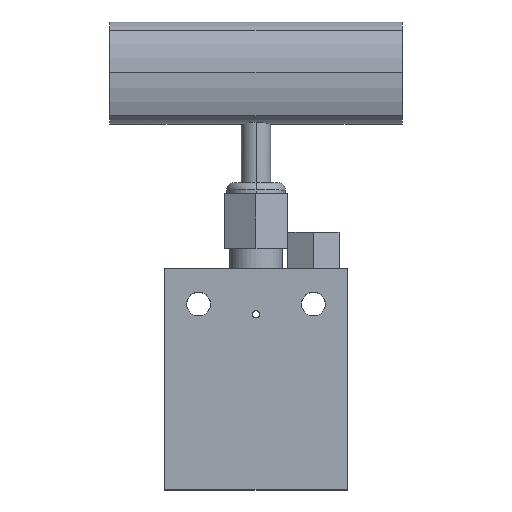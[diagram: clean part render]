
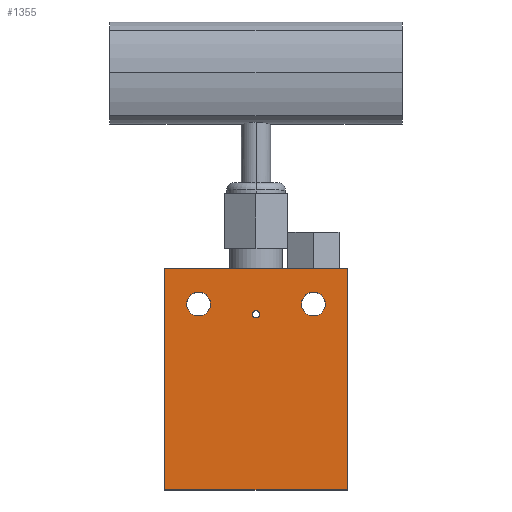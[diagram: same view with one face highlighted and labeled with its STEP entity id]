
A CAD part, top view. The second image highlights one B-rep face of the part: STEP entity #1355.
In plain terms, the highlighted planar face has unit normal (0, 0, 1).
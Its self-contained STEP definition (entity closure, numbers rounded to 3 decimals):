
#3 = EDGE_LOOP ( 'NONE', ( #44, #148 ) ) ;
#10 = CARTESIAN_POINT ( 'NONE',  ( 0., 17.75, 12.5 ) ) ;
#21 = DIRECTION ( 'NONE',  ( 1., 0., 0. ) ) ;
#37 = CARTESIAN_POINT ( 'NONE',  ( 25., -30.25, 12.5 ) ) ;
#38 = DIRECTION ( 'NONE',  ( 1., 0., 0. ) ) ;
#44 = ORIENTED_EDGE ( 'NONE', *, *, #815, .F. ) ;
#61 = AXIS2_PLACEMENT_3D ( 'NONE', #1598, #252, #793 ) ;
#70 = CARTESIAN_POINT ( 'NONE',  ( 25., 30.25, 12.5 ) ) ;
#90 = ORIENTED_EDGE ( 'NONE', *, *, #843, .T. ) ;
#111 = LINE ( 'NONE', #638, #363 ) ;
#116 = CARTESIAN_POINT ( 'NONE',  ( 25., 30.25, 12.5 ) ) ;
#148 = ORIENTED_EDGE ( 'NONE', *, *, #183, .F. ) ;
#166 = DIRECTION ( 'NONE',  ( 0., -1., 0. ) ) ;
#183 = EDGE_CURVE ( 'NONE', #522, #478, #1147, .T. ) ;
#188 = VERTEX_POINT ( 'NONE', #37 ) ;
#201 = CARTESIAN_POINT ( 'NONE',  ( -18.95, 20.55, 12.5 ) ) ;
#252 = DIRECTION ( 'NONE',  ( 0., 0., 1. ) ) ;
#282 = AXIS2_PLACEMENT_3D ( 'NONE', #1100, #937, #292 ) ;
#292 = DIRECTION ( 'NONE',  ( 1., 0., 0. ) ) ;
#312 = DIRECTION ( 'NONE',  ( 1., 0., 0. ) ) ;
#320 = VERTEX_POINT ( 'NONE', #758 ) ;
#323 = VERTEX_POINT ( 'NONE', #1728 ) ;
#341 = ORIENTED_EDGE ( 'NONE', *, *, #1368, .T. ) ;
#363 = VECTOR ( 'NONE', #1454, 1000. ) ;
#370 = DIRECTION ( 'NONE',  ( 0., 0., 1. ) ) ;
#377 = DIRECTION ( 'NONE',  ( 1., 0., 0. ) ) ;
#379 = EDGE_CURVE ( 'NONE', #676, #623, #403, .T. ) ;
#397 = CARTESIAN_POINT ( 'NONE',  ( -25., -30.25, 12.5 ) ) ;
#403 = CIRCLE ( 'NONE', #1637, 1. ) ;
#478 = VERTEX_POINT ( 'NONE', #201 ) ;
#500 = LINE ( 'NONE', #116, #1235 ) ;
#509 = PLANE ( 'NONE',  #1357 ) ;
#518 = DIRECTION ( 'NONE',  ( 1., 0., 0. ) ) ;
#520 = VERTEX_POINT ( 'NONE', #70 ) ;
#522 = VERTEX_POINT ( 'NONE', #1560 ) ;
#532 = CARTESIAN_POINT ( 'NONE',  ( -15.7, 20.55, 12.5 ) ) ;
#549 = DIRECTION ( 'NONE',  ( 0., 0., 1. ) ) ;
#623 = VERTEX_POINT ( 'NONE', #1429 ) ;
#638 = CARTESIAN_POINT ( 'NONE',  ( 25., -30.25, 12.5 ) ) ;
#659 = CARTESIAN_POINT ( 'NONE',  ( 12.45, 20.55, 12.5 ) ) ;
#676 = VERTEX_POINT ( 'NONE', #1166 ) ;
#682 = ORIENTED_EDGE ( 'NONE', *, *, #802, .F. ) ;
#733 = EDGE_CURVE ( 'NONE', #520, #323, #500, .T. ) ;
#742 = AXIS2_PLACEMENT_3D ( 'NONE', #532, #370, #908 ) ;
#758 = CARTESIAN_POINT ( 'NONE',  ( 18.95, 20.55, 12.5 ) ) ;
#784 = FACE_BOUND ( 'NONE', #3, .T. ) ;
#793 = DIRECTION ( 'NONE',  ( 1., 0., 0. ) ) ;
#796 = EDGE_CURVE ( 'NONE', #623, #676, #1557, .T. ) ;
#801 = VECTOR ( 'NONE', #166, 1000. ) ;
#802 = EDGE_CURVE ( 'NONE', #1343, #320, #823, .T. ) ;
#815 = EDGE_CURVE ( 'NONE', #478, #522, #1758, .T. ) ;
#823 = CIRCLE ( 'NONE', #61, 3.25 ) ;
#843 = EDGE_CURVE ( 'NONE', #323, #1052, #1370, .T. ) ;
#897 = CARTESIAN_POINT ( 'NONE',  ( 0., 17.75, 12.5 ) ) ;
#908 = DIRECTION ( 'NONE',  ( 1., 0., 0. ) ) ;
#925 = AXIS2_PLACEMENT_3D ( 'NONE', #1682, #1543, #312 ) ;
#937 = DIRECTION ( 'NONE',  ( 0., 0., 1. ) ) ;
#951 = ORIENTED_EDGE ( 'NONE', *, *, #972, .T. ) ;
#972 = EDGE_CURVE ( 'NONE', #1052, #188, #1104, .T. ) ;
#973 = ORIENTED_EDGE ( 'NONE', *, *, #379, .F. ) ;
#987 = EDGE_LOOP ( 'NONE', ( #90, #951, #341, #1139 ) ) ;
#1017 = EDGE_LOOP ( 'NONE', ( #1659, #973 ) ) ;
#1024 = CIRCLE ( 'NONE', #282, 3.25 ) ;
#1048 = CARTESIAN_POINT ( 'NONE',  ( 0., 0., 12.5 ) ) ;
#1052 = VERTEX_POINT ( 'NONE', #1399 ) ;
#1055 = VECTOR ( 'NONE', #38, 1000. ) ;
#1064 = FACE_OUTER_BOUND ( 'NONE', #987, .T. ) ;
#1100 = CARTESIAN_POINT ( 'NONE',  ( 15.7, 20.55, 12.5 ) ) ;
#1104 = LINE ( 'NONE', #1528, #1055 ) ;
#1139 = ORIENTED_EDGE ( 'NONE', *, *, #733, .T. ) ;
#1143 = EDGE_CURVE ( 'NONE', #320, #1343, #1024, .T. ) ;
#1147 = CIRCLE ( 'NONE', #925, 3.25 ) ;
#1166 = CARTESIAN_POINT ( 'NONE',  ( 1., 17.75, 12.5 ) ) ;
#1185 = FACE_BOUND ( 'NONE', #1750, .T. ) ;
#1235 = VECTOR ( 'NONE', #1335, 1000. ) ;
#1286 = AXIS2_PLACEMENT_3D ( 'NONE', #897, #1482, #518 ) ;
#1335 = DIRECTION ( 'NONE',  ( -1., 0., 0. ) ) ;
#1343 = VERTEX_POINT ( 'NONE', #659 ) ;
#1355 = ADVANCED_FACE ( 'NONE', ( #784, #1064, #1185, #1743 ), #509, .T. ) ;
#1357 = AXIS2_PLACEMENT_3D ( 'NONE', #1048, #1605, #377 ) ;
#1368 = EDGE_CURVE ( 'NONE', #188, #520, #111, .T. ) ;
#1370 = LINE ( 'NONE', #397, #801 ) ;
#1399 = CARTESIAN_POINT ( 'NONE',  ( -25., -30.25, 12.5 ) ) ;
#1429 = CARTESIAN_POINT ( 'NONE',  ( -1., 17.75, 12.5 ) ) ;
#1454 = DIRECTION ( 'NONE',  ( 0., 1., 0. ) ) ;
#1482 = DIRECTION ( 'NONE',  ( 0., 0., 1. ) ) ;
#1528 = CARTESIAN_POINT ( 'NONE',  ( 25., -30.25, 12.5 ) ) ;
#1543 = DIRECTION ( 'NONE',  ( 0., 0., 1. ) ) ;
#1557 = CIRCLE ( 'NONE', #1286, 1. ) ;
#1560 = CARTESIAN_POINT ( 'NONE',  ( -12.45, 20.55, 12.5 ) ) ;
#1598 = CARTESIAN_POINT ( 'NONE',  ( 15.7, 20.55, 12.5 ) ) ;
#1605 = DIRECTION ( 'NONE',  ( 0., 0., 1. ) ) ;
#1637 = AXIS2_PLACEMENT_3D ( 'NONE', #10, #549, #21 ) ;
#1659 = ORIENTED_EDGE ( 'NONE', *, *, #796, .F. ) ;
#1682 = CARTESIAN_POINT ( 'NONE',  ( -15.7, 20.55, 12.5 ) ) ;
#1720 = ORIENTED_EDGE ( 'NONE', *, *, #1143, .F. ) ;
#1728 = CARTESIAN_POINT ( 'NONE',  ( -25., 30.25, 12.5 ) ) ;
#1743 = FACE_BOUND ( 'NONE', #1017, .T. ) ;
#1750 = EDGE_LOOP ( 'NONE', ( #682, #1720 ) ) ;
#1758 = CIRCLE ( 'NONE', #742, 3.25 ) ;
